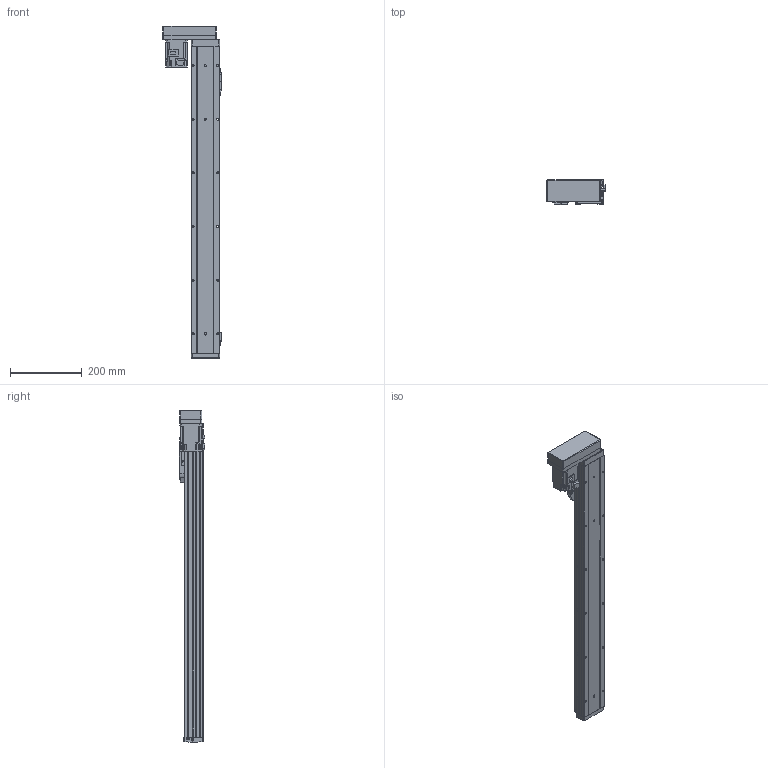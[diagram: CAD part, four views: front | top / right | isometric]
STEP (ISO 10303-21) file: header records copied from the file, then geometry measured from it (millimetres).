
FILE_DESCRIPTION (( 'STEP AP214' ), '1' );
FILE_NAME ('GSH8-700-BR-M20-1.step', '2025-01-07T06:10:52', ( '' ), ( '' ), 'SwSTEP 2.0', 'SolidWorks 2012', '' );
FILE_SCHEMA (( 'AUTOMOTIVE_DESIGN' ));
Length unit declared in the file: millimetre
Products named in the file (5): HG-KR23_200W_Motor; GSH8-700-BR-M20-1; GSH8-BL-011-700-M20; GSH8-BL-008; GSH8-GY-004
Assembly tree (4 placements, depth 2):
  GSH8-700-BR-M20-1
    GSH8-BL-011-700-M20
    GSH8-GY-004
    GSH8-BL-008
    HG-KR23_200W_Motor
Bounding box: 163 x 71.3 x 928.2 mm (x, y, z)
Volume: 2241706.9 mm3; surface area: 562343.7 mm2
Topology: 4 solids, 8 shells, 1127 faces, 2957 edges, 1903 vertices
Faces by surface type: plane 636, cylinder 395, torus 42, cone 26, bspline 24, sphere 4
Entity records: 44065 total; most frequent: CARTESIAN_POINT 9936, DIRECTION 6005, ORIENTED_EDGE 5898, EDGE_CURVE 2949, AXIS2_PLACEMENT_3D 2024, LINE 1957, VECTOR 1957, VERTEX_POINT 1899
